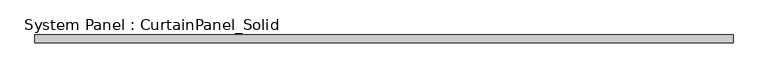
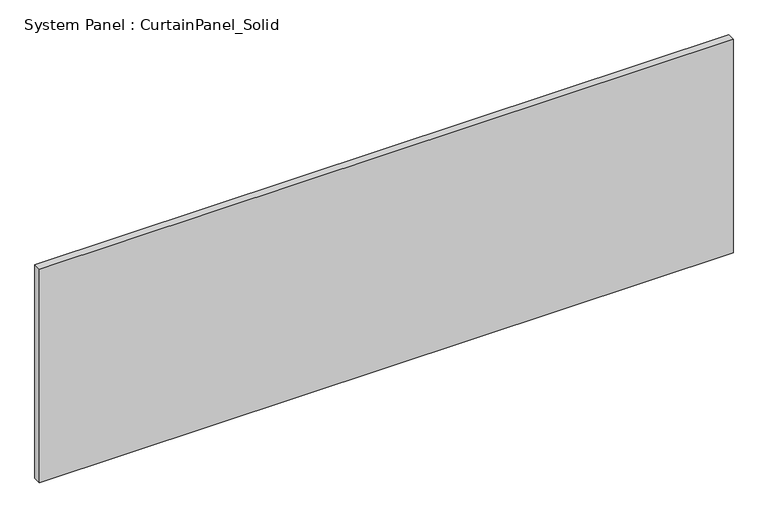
"""IFC4 building model written with IfcOpenShell, lengths in millimetres: plate geometry, System Panel : CurtainPanel_Solid."""

import ifcopenshell
import ifcopenshell.guid

model = None  # the IFC model being written
_history = None  # IfcOwnerHistory: only IFC2X3 demands one
_inside = {}  # id of a spatial element -> (the spatial element, [elements in it])
_under = {}  # id of a project, library or spatial element -> (it, [spatial elements below it])
_declared = {}  # id of a project -> (the project, [libraries it declares])
_typed = {}  # id of a type object -> (the type object, [elements of that type])
_made_of = {}  # id of a material, layer set ... -> (it, [elements and type objects made of it])


def new_model(schema):
    """Start an empty IFC model of exactly this schema.

    Asked for "IFC4X3", IfcOpenShell would pick the latest addendum, in which some entities
    have other attributes; the version numbers below select the first issue.
    IFC2X3 requires an IfcOwnerHistory on every rooted entity: one is made here for all.
    """
    global model, _history
    if schema == "IFC4X3":
        model = ifcopenshell.file(schema_version=(4, 3, 0, 0))
    else:
        model = ifcopenshell.file(schema=schema)
    _inside.clear()
    _under.clear()
    _declared.clear()
    _typed.clear()
    _made_of.clear()
    _history = None
    if model.schema == "IFC2X3":
        org = make("IfcOrganization", Name="unknown")
        user = make(
            "IfcPersonAndOrganization",
            ThePerson=make("IfcPerson", FamilyName="unknown"),
            TheOrganization=org,
        )
        app = make(
            "IfcApplication",
            ApplicationDeveloper=org,
            Version="unknown",
            ApplicationFullName="unknown",
            ApplicationIdentifier="unknown",
        )
        _history = make(
            "IfcOwnerHistory",
            OwningUser=user,
            OwningApplication=app,
            ChangeAction="ADDED",
            CreationDate=0,
        )
    return model


def make(cls, **values):
    """One entity of the class cls with the attributes given. An attribute that is None is left unset."""
    return model.create_entity(
        cls, **{name: value for name, value in values.items() if value is not None}
    )


def rooted(cls, **values):
    """An entity with a GlobalId (a new one), such as an element, a storey or a relation."""
    return make(cls, GlobalId=ifcopenshell.guid.new(), OwnerHistory=_history, **values)


def si_unit(unit_type, name, prefix=None):
    """IfcSIUnit, for example si_unit("LENGTHUNIT", "METRE", prefix="MILLI")."""
    return make("IfcSIUnit", UnitType=unit_type, Prefix=prefix, Name=name)


def assignment(units):
    """IfcUnitAssignment: the units of a project."""
    return None if units is None else make("IfcUnitAssignment", Units=units)


def point(xyz):
    """IfcCartesianPoint."""
    return None if xyz is None else make("IfcCartesianPoint", Coordinates=xyz)


def direction(xyz):
    """IfcDirection."""
    return None if xyz is None else make("IfcDirection", DirectionRatios=xyz)


def frame(location, z_axis=None, x_axis=None):
    """IfcAxis2Placement3D, a coordinate frame: its origin and axes. An axis left out is left unset."""
    return make(
        "IfcAxis2Placement3D",
        Location=point(location),
        Axis=direction(z_axis),
        RefDirection=direction(x_axis),
    )


def origin():
    """The frame at (0, 0, 0) with its axes left unset."""
    return frame((0.0, 0.0, 0.0))


def origin_with_axes():
    """The frame at (0, 0, 0) with the z axis (0, 0, 1) and the x axis (1, 0, 0) written out."""
    return frame((0.0, 0.0, 0.0), z_axis=(0.0, 0.0, 1.0), x_axis=(1.0, 0.0, 0.0))


def place(relative_to, where):
    """IfcLocalPlacement: puts the frame where relative to a parent placement (None: the world)."""
    return make(
        "IfcLocalPlacement", PlacementRelTo=relative_to, RelativePlacement=where
    )


def context(
    kind, dimensions, precision=None, world=None, true_north=None, identifier=None
):
    """IfcGeometricRepresentationContext, for example the 3D "Model" context."""
    return make(
        "IfcGeometricRepresentationContext",
        ContextIdentifier=identifier,
        ContextType=kind,
        CoordinateSpaceDimension=dimensions,
        Precision=precision,
        WorldCoordinateSystem=world,
        TrueNorth=true_north,
    )


def project(units=None, contexts=None):
    """IfcProject with its units and contexts."""
    return rooted(
        "IfcProject",
        Name="project",
        RepresentationContexts=contexts,
        UnitsInContext=assignment(units),
    )


def spatial(cls, under=None, at=None, **own):
    """A site, building, storey or space (cls), placed at a placement, below another one or the project."""
    s = rooted(cls, ObjectPlacement=at, **own)
    if under is not None:
        _under.setdefault(under.id(), (under, []))[1].append(s)
    return s


def polyline(points):
    """IfcPolyline through the points."""
    return make("IfcPolyline", Points=[point(p) for p in points])


def outline(outer, holes=None, kind="AREA"):
    """IfcArbitraryClosedProfileDef: a profile drawn as a closed curve; with holes, ...WithVoids."""
    if holes is None:
        return make("IfcArbitraryClosedProfileDef", ProfileType=kind, OuterCurve=outer)
    return make(
        "IfcArbitraryProfileDefWithVoids",
        ProfileType=kind,
        OuterCurve=outer,
        InnerCurves=holes,
    )


def extrude(swept, where, along, depth):
    """IfcExtrudedAreaSolid: the profile swept, set in the frame where, extruded along a direction by depth."""
    return make(
        "IfcExtrudedAreaSolid",
        SweptArea=swept,
        Position=where,
        ExtrudedDirection=direction(along),
        Depth=depth,
    )


def shape(context_of_items, identifier, shape_type, items):
    """IfcShapeRepresentation: the items that make up one representation, for example the "Body"."""
    return make(
        "IfcShapeRepresentation",
        ContextOfItems=context_of_items,
        RepresentationIdentifier=identifier,
        RepresentationType=shape_type,
        Items=items,
    )


def source(mapping_origin, context_of_items, identifier, shape_type, items):
    """IfcRepresentationMap: a shape defined once, which mapped items show again and again."""
    return make(
        "IfcRepresentationMap",
        MappingOrigin=mapping_origin,
        MappedRepresentation=shape(context_of_items, identifier, shape_type, items),
    )


def transform(
    local_origin,
    x_axis=None,
    y_axis=None,
    z_axis=None,
    scale=None,
    scale2=None,
    scale3=None,
    uniform=True,
):
    """IfcCartesianTransformationOperator3D, or its non-uniform kind. x_axis, y_axis, z_axis: its Axis1, 2, 3."""
    if uniform:
        return make(
            "IfcCartesianTransformationOperator3D",
            Axis1=direction(x_axis),
            Axis2=direction(y_axis),
            LocalOrigin=point(local_origin),
            Scale=scale,
            Axis3=direction(z_axis),
        )
    return make(
        "IfcCartesianTransformationOperator3DnonUniform",
        Axis1=direction(x_axis),
        Axis2=direction(y_axis),
        LocalOrigin=point(local_origin),
        Scale=scale,
        Axis3=direction(z_axis),
        Scale2=scale2,
        Scale3=scale3,
    )


def mapped(mapping_source, mapping_target):
    """IfcMappedItem: shows the shape of a source again, moved by a transform."""
    return make(
        "IfcMappedItem", MappingSource=mapping_source, MappingTarget=mapping_target
    )


def made_of(thing, what):
    """Note that an element or type object is made of a material, layer set ...; save() writes the relation."""
    if what is not None:
        _made_of.setdefault(what.id(), (what, []))[1].append(thing)
    return thing


def element(
    cls,
    number,
    at=None,
    inside=None,
    cuts=None,
    type_object=None,
    material=None,
    context=None,
    identifier="Body",
    shape_type=None,
    held_by="IfcProductDefinitionShape",
    body=None,
    shapes=None,
    **own,
):
    """One element of the class cls, such as IfcWall. Its Tag is "e" and its number.

    at: its placement. inside: the storey or other place that contains it. cuts: it is an
    opening in that element (IfcRelVoidsElement). A single representation is given by context,
    identifier, shape_type and body (its items); several are given by shapes. held_by: the class
    of the entity that holds the representations. save() writes the other relations.
    """
    e = rooted(cls, Tag="e%d" % number, ObjectPlacement=at, **own)
    if body is not None:
        shapes = [shape(context, identifier, shape_type, body)]
    if shapes is not None:
        e.Representation = make(held_by, Representations=shapes)
    if inside is not None:
        _inside.setdefault(inside.id(), (inside, []))[1].append(e)
    if cuts is not None:
        rooted(
            "IfcRelVoidsElement", RelatingBuildingElement=cuts, RelatedOpeningElement=e
        )
    if type_object is not None:
        _typed.setdefault(type_object.id(), (type_object, []))[1].append(e)
    return made_of(e, material)


def aggregate(whole, parts):
    """IfcRelAggregates: a whole, such as a stair, and the parts it consists of."""
    return rooted("IfcRelAggregates", RelatingObject=whole, RelatedObjects=parts)


def save(model, path):
    """Write the relations noted so far, then the file.

    IfcRelAggregates (storeys below a building ...), IfcRelContainedInSpatialStructure (elements
    in a storey), IfcRelDefinesByType, IfcRelAssociatesMaterial and IfcRelDeclares: one each for
    every whole, place, type object, material and project.
    """
    for whole, parts in _under.values():
        aggregate(whole, parts)
    for where, things in _inside.values():
        rooted(
            "IfcRelContainedInSpatialStructure",
            RelatedElements=things,
            RelatingStructure=where,
        )
    for kind, things in _typed.values():
        rooted("IfcRelDefinesByType", RelatedObjects=things, RelatingType=kind)
    for what, things in _made_of.values():
        rooted("IfcRelAssociatesMaterial", RelatedObjects=things, RelatingMaterial=what)
    for by, libraries in _declared.values():
        rooted("IfcRelDeclares", RelatingContext=by, RelatedDefinitions=libraries)
    model.write(path)


def system_panel_curtainpanel_solid_7e97e8f3(model_context):
    return source(origin(), model_context, "Body", "SweptSolid", [
        extrude(outline(polyline([(1113.6000001, -12.5), (-1113.6000001, -12.5), (-1113.6000001, 12.5), (1113.6000001, 12.5), (1113.6000001, -12.5)])), origin_with_axes(), (0.0, 0.0, 1.0), 725.0),
    ])


if __name__ == "__main__":
    model = new_model("IFC4")
    model_context = context("Model", 3, world=origin())
    ifc_project = project(units=[si_unit("LENGTHUNIT", "METRE", prefix="MILLI")], contexts=[model_context])
    site = spatial("IfcSite", under=ifc_project)
    building = spatial("IfcBuilding", under=site)
    placement = place(None, origin())
    system_panel_curtainpanel_solid_shape = system_panel_curtainpanel_solid_7e97e8f3(model_context)
    element("IfcPlate", 1, ObjectType="System Panel : CurtainPanel_Solid", at=placement, inside=building, context=model_context, shape_type="MappedRepresentation", body=[
        mapped(system_panel_curtainpanel_solid_shape, transform((0.0, 0.0, 0.0), x_axis=(1.0, 0.0, 0.0), y_axis=(0.0, 1.0, 0.0), z_axis=(0.0, 0.0, 1.0))),
    ])
    save(model, "model.ifc")
